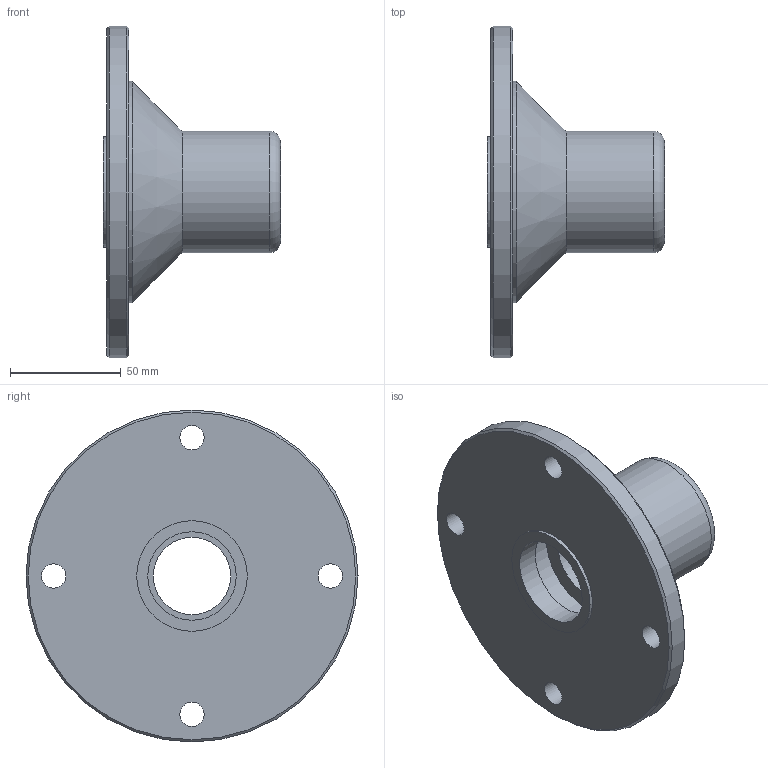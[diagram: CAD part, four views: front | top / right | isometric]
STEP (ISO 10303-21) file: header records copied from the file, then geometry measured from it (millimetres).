
FILE_DESCRIPTION((''),'2;1');
FILE_NAME('C:\Users\User\Desktop\Mastercam-harjoitukset\MCAML6.stp','2020-04-19T11:25:31',(''),(''),'STEP Write','Mastercam 2020 ... CNC Software, Inc.','');
FILE_SCHEMA(('AUTOMOTIVE_DESIGN'));
Length unit declared in the file: millimetre
Products named in the file (1): None
Bounding box: 80 x 150 x 150 mm (x, y, z)
Volume: 306316 mm3; surface area: 59295.2 mm2
Topology: 1 solids, 1 shells, 22 faces, 42 edges, 26 vertices
Faces by surface type: cylinder 11, plane 6, cone 4, torus 1
Full cylindrical faces by diameter (mm): 11 x4, 35 x1, 40 x1, 50 x2, 55 x1, 100 x1, 150 x1
Entity records: 557 total; most frequent: DIRECTION 100, CARTESIAN_POINT 76, ORIENTED_EDGE 52, EDGE_LOOP 52, AXIS2_PLACEMENT_3D 50, FACE_BOUND 42, VERTEX_POINT 26, CIRCLE 26
